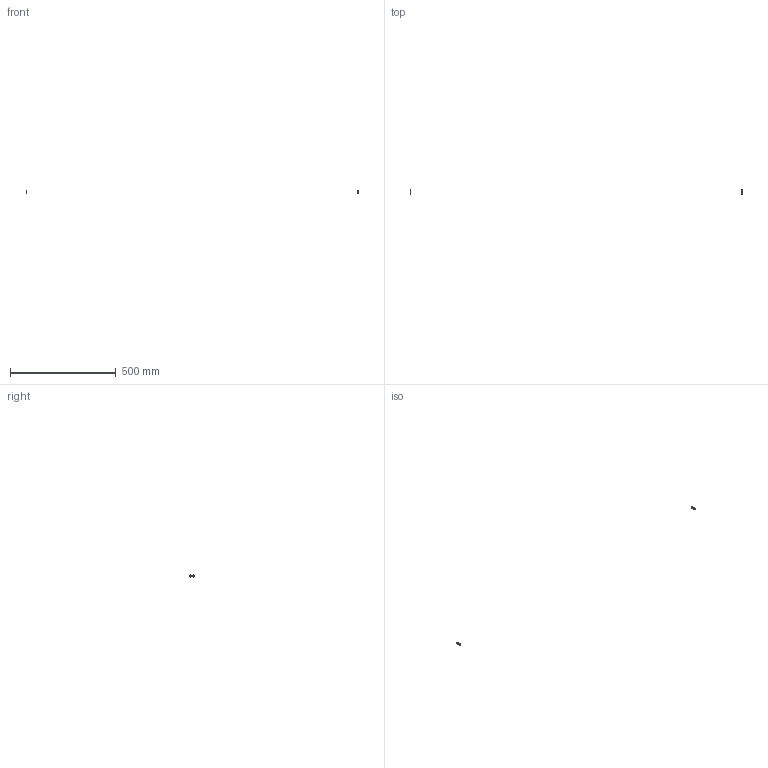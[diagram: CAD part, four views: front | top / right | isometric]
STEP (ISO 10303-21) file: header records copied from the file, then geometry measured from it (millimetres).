
FILE_DESCRIPTION(/* description */ (''),/* implementation_level */ '2;1');
FILE_NAME(/* name */ '4.frame-door#4.8#PACK-SPWFN4',/* time_stamp */ '2014-12-01T20:13:09+01:00',/* author */ (''),/* organization */ (''),/* preprocessor_version */ 'ST-DEVELOPER v14',/* originating_system */ '',/* authorisation */ '');
FILE_SCHEMA (('AUTOMOTIVE_DESIGN'));
Length unit declared in the file: millimetre
Products named in the file (2): Document; washer DIN9021-like, form G, M4
Assembly tree (2 placements, depth 2):
  Document
    washer DIN9021-like, form G, M4  x2
Bounding box: 1567 x 24 x 9.97 mm (x, y, z)
Surface area: 775.5 mm2 (no closed solid volume)
Topology: 0 solids, 24 shells, 24 faces, 80 edges, 80 vertices
Faces by surface type: bspline 16, plane 8
Entity records: 1539 total; most frequent: CARTESIAN_POINT 767, B_SPLINE_CURVE_WITH_KNOTS 72, ORIENTED_EDGE 60, PCURVE 60, DEFINITIONAL_REPRESENTATION 60, SURFACE_CURVE 60, EDGE_CURVE 60, VERTEX_POINT 60
